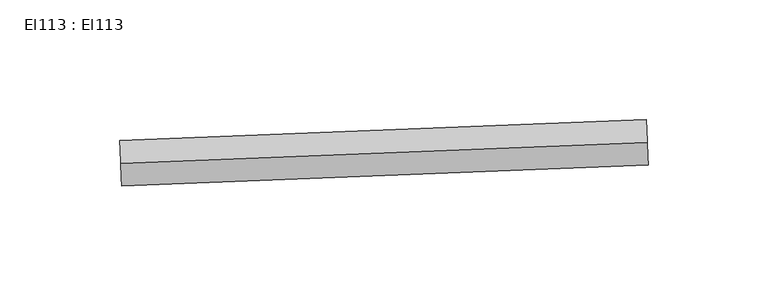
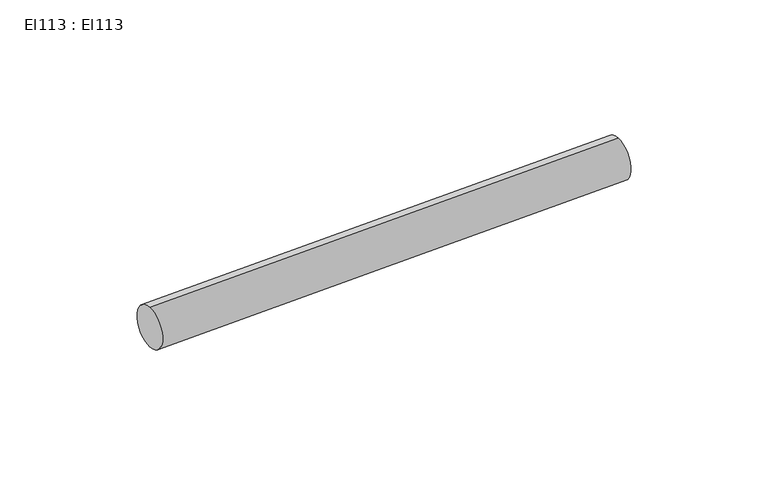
"""IFC4 building model written with IfcOpenShell, lengths in millimetres: cable carrier segment geometry, El113 : El113."""

from ifc_helpers import new_model, si_unit, point, frame, frame_2d, origin, place, context, project, spatial, circle_curve, trimmed, segment, composite_curve, outline, extrude, source, transform, mapped, element, save


def el113_el113_ccf8b8b7(model_context):
    return source(origin(), model_context, "Body", "SweptSolid", [
        extrude(outline(composite_curve([segment(trimmed(circle_curve(frame_2d((0.0, -9.5)), 9.5), [point((0.0, -19.0))], [point((0.0, 0.0))], False, "CARTESIAN"), True, "CONTINUOUS"), segment(trimmed(circle_curve(frame_2d((0.0, -9.5)), 9.5), [point((0.0, 0.0))], [point((0.0, -19.0))], False, "CARTESIAN"), True, "CONTINUOUS")], self_intersect=False)), frame((31345.7662161, 15363.0997549, 1209.5), z_axis=(0.9991984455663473, 0.04003081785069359, 0.0), x_axis=(-0.04003081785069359, 0.9991984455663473, 0.0)), (0.0, 0.0, 1.0), 219.843),
    ])


if __name__ == "__main__":
    model = new_model("IFC4")
    model_context = context("Model", 3, world=origin())
    ifc_project = project(units=[si_unit("LENGTHUNIT", "METRE", prefix="MILLI")], contexts=[model_context])
    site = spatial("IfcSite", under=ifc_project)
    building = spatial("IfcBuilding", under=site)
    placement = place(None, origin())
    el113_el113_shape = el113_el113_ccf8b8b7(model_context)
    element("IfcCableCarrierSegment", 1, ObjectType="El113 : El113", at=placement, inside=building, context=model_context, shape_type="MappedRepresentation", body=[
        mapped(el113_el113_shape, transform((0.0, 0.0, 0.0), x_axis=(1.0, 0.0, 0.0), y_axis=(0.0, 1.0, 0.0), z_axis=(0.0, 0.0, 1.0))),
    ])
    save(model, "model.ifc")
